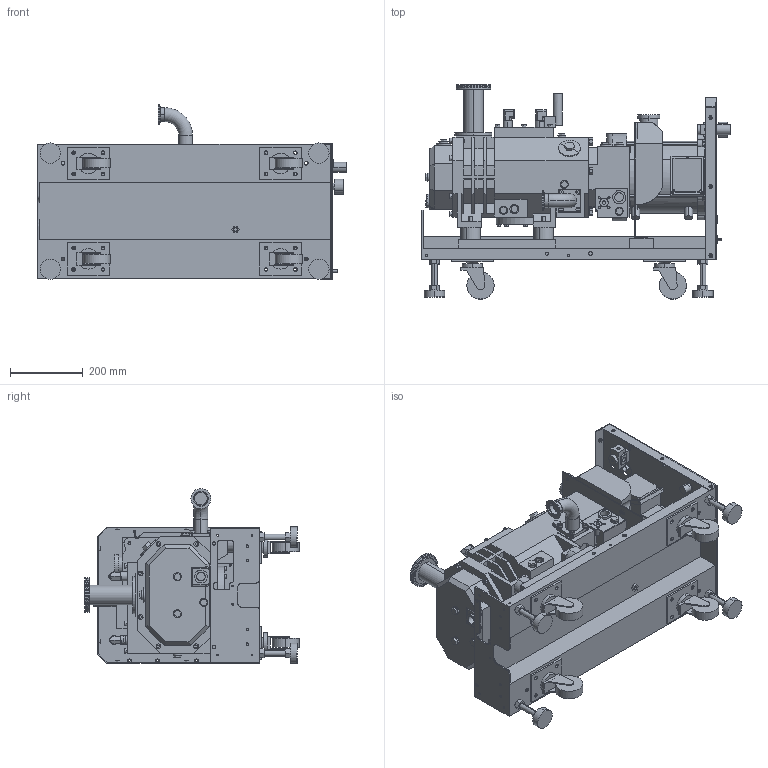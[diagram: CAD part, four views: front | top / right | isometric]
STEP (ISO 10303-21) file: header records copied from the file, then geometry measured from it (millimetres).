
FILE_DESCRIPTION((''),'2;1');
FILE_NAME('300547541_Y19_000_ASM','2016-07-01T',('56762'),('Copyright by Leybold GmbH'),'PRO/ENGINEER BY PARAMETRIC TECHNOLOGY CORPORATION, 2015280','PRO/ENGINEER BY PARAMETRIC TECHNOLOGY CORPORATION, 2015280','');
FILE_SCHEMA(('AUTOMOTIVE_DESIGN { 1 0 10303 214 1 1 1 1 }'));
Products named in the file (13): 300547526_Y19_000; 300539643_Y19_000; 300539644_Y19_000; 300539645_Y19_000; 300547527_Y19_000; 300547528_Y19_000; 300539648_Y19_000; 300547529_Y19_000; 300547530_Y19_000; 300547536_Y19_000; 300547537_Y19_000; 300547540_Y19_000; 300547541_Y19_000_ASM
Assembly tree (21 placements, depth 2):
  300547541_Y19_000_ASM
    300547526_Y19_000
    300539643_Y19_000  x4
    300539644_Y19_000  x4
    300539645_Y19_000  x4
    300547527_Y19_000
    300547528_Y19_000
    300539648_Y19_000
    300547529_Y19_000
    300547530_Y19_000
    300547536_Y19_000
    300547537_Y19_000
    300547540_Y19_000
Bounding box: 850.4 x 591 x 481.5 mm (x, y, z)
Volume: 46830404.6 mm3; surface area: 3328391.8 mm2
Topology: 28 solids, 44 shells, 2872 faces, 7330 edges, 4866 vertices
Faces by surface type: plane 1610, cylinder 840, extrusion 365, cone 45, torus 6, bspline 4, sphere 2
Entity records: 91672 total; most frequent: CARTESIAN_POINT 20003, ORIENTED_EDGE 13776, DIRECTION 12772, EDGE_CURVE 6888, VECTOR 4828, VERTEX_POINT 4578, LINE 4463, AXIS2_PLACEMENT_3D 3972
